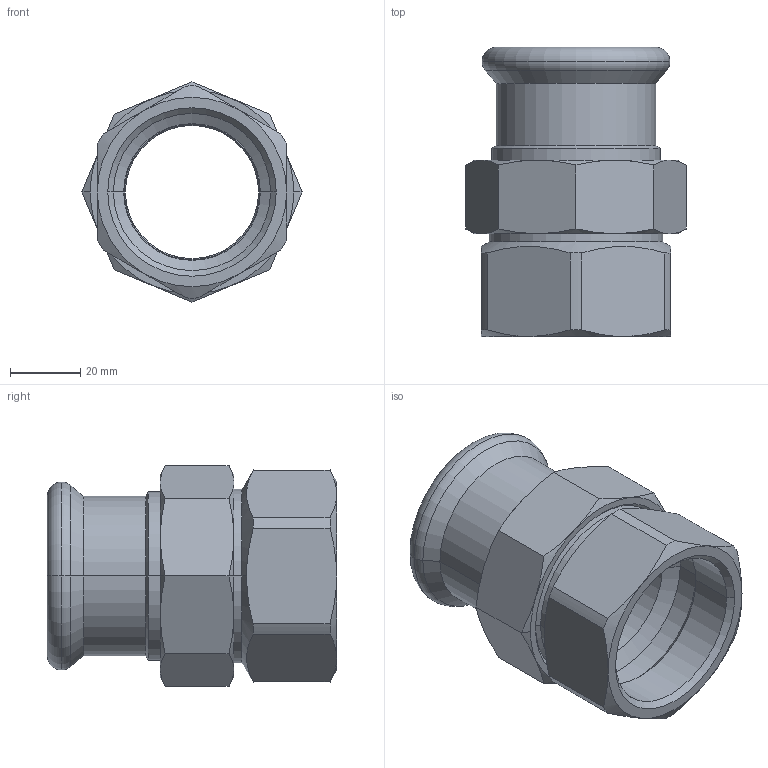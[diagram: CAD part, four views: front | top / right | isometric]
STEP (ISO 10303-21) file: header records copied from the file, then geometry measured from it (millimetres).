
FILE_DESCRIPTION(('CoCreate Modeling STEP Export'),'2;1');
FILE_NAME('C1444 42xRp1 1-2.stp','2014-11-12T16:46:46',(''),(''),'CoCreate Modeling STEP processor for AP214 (Solid Model)','CoCreate Modeling 17.00A 17-Jun-2010 (C) Parametric Technology GmbH','');
FILE_SCHEMA(('AUTOMOTIVE_DESIGN { 1 0 10303 214 1 1 1 1 }'));
Length unit declared in the file: millimetre
Products named in the file (2): C1444_42xRp1_1-2
Assembly tree (1 placements, depth 2):
  C1444_42xRp1_1-2
    C1444_42xRp1_1-2
Bounding box: 62.78 x 82.5 x 62.78 mm (x, y, z)
Volume: 67748.6 mm3; surface area: 33652.3 mm2
Topology: 1 solids, 1 shells, 115 faces, 251 edges, 145 vertices
Faces by surface type: cone 52, cylinder 32, plane 23, torus 8
Entity records: 4731 total; most frequent: CARTESIAN_POINT 2671, ORIENTED_EDGE 502, DIRECTION 288, EDGE_CURVE 251, VERTEX_POINT 145, EDGE_LOOP 124, FACE_OUTER_BOUND 115, ADVANCED_FACE 115
